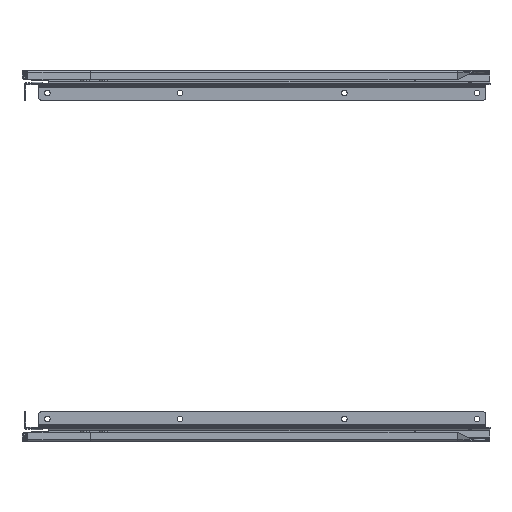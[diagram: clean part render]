
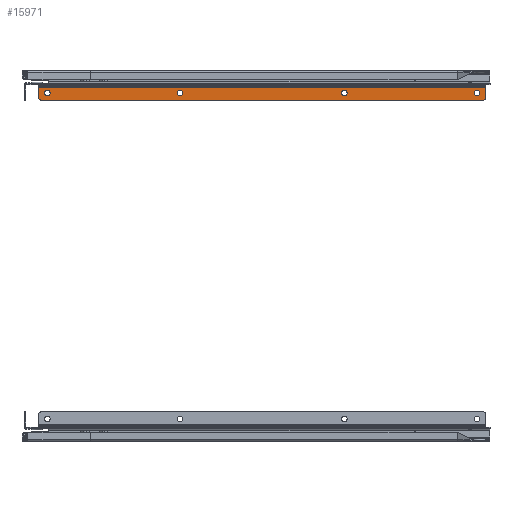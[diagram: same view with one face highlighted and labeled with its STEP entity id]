
A CAD part, front view. The second image highlights one B-rep face of the part: STEP entity #15971.
In plain terms, the highlighted planar face has unit normal (0, -1, 0).
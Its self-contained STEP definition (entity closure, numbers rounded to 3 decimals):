
#251 = EDGE_CURVE ( 'NONE', #11627, #12935, #11990, .T. ) ;
#440 = DIRECTION ( 'NONE',  ( 0., 0., -1. ) ) ;
#452 = CARTESIAN_POINT ( 'NONE',  ( 136.4, -0.7, -6.35 ) ) ;
#594 = DIRECTION ( 'NONE',  ( -1., 0., 0. ) ) ;
#637 = DIRECTION ( 'NONE',  ( 0., 0., 1. ) ) ;
#712 = CARTESIAN_POINT ( 'NONE',  ( 430.8, -0.7, -16. ) ) ;
#733 = DIRECTION ( 'NONE',  ( 0., 0., 1. ) ) ;
#981 = AXIS2_PLACEMENT_3D ( 'NONE', #2695, #10287, #12326 ) ;
#1202 = DIRECTION ( 'NONE',  ( 0., 1., 0. ) ) ;
#1331 = CARTESIAN_POINT ( 'NONE',  ( 430.8, -0.7, -3.324 ) ) ;
#1387 = CARTESIAN_POINT ( 'NONE',  ( 422.4, -0.7, -11.85 ) ) ;
#1583 = CARTESIAN_POINT ( 'NONE',  ( 3., -0.7, -16. ) ) ;
#2014 = ORIENTED_EDGE ( 'NONE', *, *, #7930, .F. ) ;
#2077 = CARTESIAN_POINT ( 'NONE',  ( 8.4, -0.7, -11.85 ) ) ;
#2141 = CARTESIAN_POINT ( 'NONE',  ( 430.8, -0.7, -3.324 ) ) ;
#2472 = FACE_BOUND ( 'NONE', #15064, .T. ) ;
#2596 = ORIENTED_EDGE ( 'NONE', *, *, #19677, .T. ) ;
#2695 = CARTESIAN_POINT ( 'NONE',  ( 294.4, -0.7, -9.1 ) ) ;
#3100 = DIRECTION ( 'NONE',  ( 0., 0., 1. ) ) ;
#3518 = VERTEX_POINT ( 'NONE', #1387 ) ;
#3845 = EDGE_LOOP ( 'NONE', ( #10043, #12340, #2014, #4509, #22682, #16872 ) ) ;
#4504 = ORIENTED_EDGE ( 'NONE', *, *, #16030, .T. ) ;
#4509 = ORIENTED_EDGE ( 'NONE', *, *, #15551, .T. ) ;
#4621 = AXIS2_PLACEMENT_3D ( 'NONE', #11980, #15788, #733 ) ;
#4965 = ORIENTED_EDGE ( 'NONE', *, *, #17947, .T. ) ;
#4976 = DIRECTION ( 'NONE',  ( 0., 0., 1. ) ) ;
#6037 = DIRECTION ( 'NONE',  ( 0., 1., 0. ) ) ;
#6153 = VERTEX_POINT ( 'NONE', #14687 ) ;
#6232 = CIRCLE ( 'NONE', #18809, 2.75 ) ;
#6497 = AXIS2_PLACEMENT_3D ( 'NONE', #21553, #17635, #15362 ) ;
#6625 = CIRCLE ( 'NONE', #981, 2.75 ) ;
#6636 = LINE ( 'NONE', #712, #8160 ) ;
#6977 = CIRCLE ( 'NONE', #10221, 2.75 ) ;
#7109 = CARTESIAN_POINT ( 'NONE',  ( 3., -0.7, -13. ) ) ;
#7119 = CIRCLE ( 'NONE', #24529, 2.75 ) ;
#7231 = DIRECTION ( 'NONE',  ( 0., 0., 1. ) ) ;
#7541 = VERTEX_POINT ( 'NONE', #21915 ) ;
#7544 = VECTOR ( 'NONE', #19724, 1000. ) ;
#7817 = CARTESIAN_POINT ( 'NONE',  ( 136.4, -0.7, -9.1 ) ) ;
#7930 = EDGE_CURVE ( 'NONE', #16706, #18841, #6636, .T. ) ;
#8140 = LINE ( 'NONE', #13720, #21797 ) ;
#8160 = VECTOR ( 'NONE', #594, 1000. ) ;
#8249 = CIRCLE ( 'NONE', #4621, 3. ) ;
#8322 = ORIENTED_EDGE ( 'NONE', *, *, #9836, .T. ) ;
#8657 = ORIENTED_EDGE ( 'NONE', *, *, #19147, .T. ) ;
#9025 = DIRECTION ( 'NONE',  ( 0., 0., -1. ) ) ;
#9254 = CIRCLE ( 'NONE', #17349, 3. ) ;
#9472 = EDGE_LOOP ( 'NONE', ( #2596, #16020 ) ) ;
#9484 = DIRECTION ( 'NONE',  ( 0., 1., 0. ) ) ;
#9790 = VERTEX_POINT ( 'NONE', #2077 ) ;
#9836 = EDGE_CURVE ( 'NONE', #10929, #19490, #6625, .T. ) ;
#10043 = ORIENTED_EDGE ( 'NONE', *, *, #12588, .T. ) ;
#10178 = FACE_BOUND ( 'NONE', #12161, .T. ) ;
#10221 = AXIS2_PLACEMENT_3D ( 'NONE', #18758, #9484, #20767 ) ;
#10287 = DIRECTION ( 'NONE',  ( 0., 1., 0. ) ) ;
#10762 = CARTESIAN_POINT ( 'NONE',  ( 294.4, -0.7, -6.35 ) ) ;
#10784 = CARTESIAN_POINT ( 'NONE',  ( 294.4, -0.7, -9.1 ) ) ;
#10929 = VERTEX_POINT ( 'NONE', #11593 ) ;
#10946 = DIRECTION ( 'NONE',  ( 0., 1., 0. ) ) ;
#11340 = AXIS2_PLACEMENT_3D ( 'NONE', #17714, #6037, #637 ) ;
#11593 = CARTESIAN_POINT ( 'NONE',  ( 294.4, -0.7, -11.85 ) ) ;
#11627 = VERTEX_POINT ( 'NONE', #15444 ) ;
#11707 = CARTESIAN_POINT ( 'NONE',  ( 427.8, -0.7, -16. ) ) ;
#11980 = CARTESIAN_POINT ( 'NONE',  ( 427.8, -0.7, -13. ) ) ;
#11990 = LINE ( 'NONE', #2141, #7544 ) ;
#12161 = EDGE_LOOP ( 'NONE', ( #8657, #8322 ) ) ;
#12259 = VERTEX_POINT ( 'NONE', #15916 ) ;
#12326 = DIRECTION ( 'NONE',  ( 0., 0., 1. ) ) ;
#12340 = ORIENTED_EDGE ( 'NONE', *, *, #14483, .T. ) ;
#12346 = FACE_BOUND ( 'NONE', #18815, .T. ) ;
#12386 = EDGE_CURVE ( 'NONE', #15955, #21489, #7119, .T. ) ;
#12588 = EDGE_CURVE ( 'NONE', #12935, #12259, #8140, .T. ) ;
#12790 = VERTEX_POINT ( 'NONE', #19965 ) ;
#12935 = VERTEX_POINT ( 'NONE', #23237 ) ;
#13279 = AXIS2_PLACEMENT_3D ( 'NONE', #10784, #18146, #22562 ) ;
#13720 = CARTESIAN_POINT ( 'NONE',  ( 0., -0.7, -3.324 ) ) ;
#14098 = AXIS2_PLACEMENT_3D ( 'NONE', #7817, #15176, #20993 ) ;
#14383 = CARTESIAN_POINT ( 'NONE',  ( 136.4, -0.7, -9.1 ) ) ;
#14483 = EDGE_CURVE ( 'NONE', #12259, #18841, #9254, .T. ) ;
#14687 = CARTESIAN_POINT ( 'NONE',  ( 8.4, -0.7, -6.35 ) ) ;
#15064 = EDGE_LOOP ( 'NONE', ( #23478, #4965 ) ) ;
#15176 = DIRECTION ( 'NONE',  ( 0., 1., 0. ) ) ;
#15362 = DIRECTION ( 'NONE',  ( 0., 0., 1. ) ) ;
#15383 = CIRCLE ( 'NONE', #11340, 2.75 ) ;
#15444 = CARTESIAN_POINT ( 'NONE',  ( 430.8, -0.7, -3.324 ) ) ;
#15551 = EDGE_CURVE ( 'NONE', #16706, #7541, #8249, .T. ) ;
#15634 = FACE_OUTER_BOUND ( 'NONE', #3845, .T. ) ;
#15788 = DIRECTION ( 'NONE',  ( 0., -1., 0. ) ) ;
#15916 = CARTESIAN_POINT ( 'NONE',  ( 0., -0.7, -13. ) ) ;
#15955 = VERTEX_POINT ( 'NONE', #452 ) ;
#15971 = ADVANCED_FACE ( 'NONE', ( #21699, #2472, #10178, #12346, #15634 ), #23352, .F. ) ;
#16020 = ORIENTED_EDGE ( 'NONE', *, *, #22243, .T. ) ;
#16030 = EDGE_CURVE ( 'NONE', #3518, #12790, #6232, .T. ) ;
#16392 = DIRECTION ( 'NONE',  ( 0., 1., 0. ) ) ;
#16638 = DIRECTION ( 'NONE',  ( 0., 0., 1. ) ) ;
#16706 = VERTEX_POINT ( 'NONE', #11707 ) ;
#16872 = ORIENTED_EDGE ( 'NONE', *, *, #251, .T. ) ;
#16962 = EDGE_CURVE ( 'NONE', #11627, #7541, #22941, .T. ) ;
#17029 = EDGE_CURVE ( 'NONE', #12790, #3518, #21900, .T. ) ;
#17331 = CIRCLE ( 'NONE', #13279, 2.75 ) ;
#17349 = AXIS2_PLACEMENT_3D ( 'NONE', #7109, #24600, #7231 ) ;
#17635 = DIRECTION ( 'NONE',  ( 0., 1., 0. ) ) ;
#17714 = CARTESIAN_POINT ( 'NONE',  ( 8.4, -0.7, -9.1 ) ) ;
#17947 = EDGE_CURVE ( 'NONE', #21489, #15955, #25027, .T. ) ;
#18146 = DIRECTION ( 'NONE',  ( 0., 1., 0. ) ) ;
#18758 = CARTESIAN_POINT ( 'NONE',  ( 8.4, -0.7, -9.1 ) ) ;
#18809 = AXIS2_PLACEMENT_3D ( 'NONE', #23994, #1202, #4976 ) ;
#18815 = EDGE_LOOP ( 'NONE', ( #20553, #4504 ) ) ;
#18841 = VERTEX_POINT ( 'NONE', #1583 ) ;
#19147 = EDGE_CURVE ( 'NONE', #19490, #10929, #17331, .T. ) ;
#19490 = VERTEX_POINT ( 'NONE', #10762 ) ;
#19677 = EDGE_CURVE ( 'NONE', #6153, #9790, #6977, .T. ) ;
#19724 = DIRECTION ( 'NONE',  ( -1., 0., 0. ) ) ;
#19965 = CARTESIAN_POINT ( 'NONE',  ( 422.4, -0.7, -6.35 ) ) ;
#20408 = AXIS2_PLACEMENT_3D ( 'NONE', #1331, #16392, #16638 ) ;
#20553 = ORIENTED_EDGE ( 'NONE', *, *, #17029, .T. ) ;
#20767 = DIRECTION ( 'NONE',  ( 0., 0., 1. ) ) ;
#20813 = CARTESIAN_POINT ( 'NONE',  ( 430.8, -0.7, -3.324 ) ) ;
#20993 = DIRECTION ( 'NONE',  ( 0., 0., 1. ) ) ;
#21063 = VECTOR ( 'NONE', #9025, 1000. ) ;
#21489 = VERTEX_POINT ( 'NONE', #24134 ) ;
#21553 = CARTESIAN_POINT ( 'NONE',  ( 422.4, -0.7, -9.1 ) ) ;
#21699 = FACE_BOUND ( 'NONE', #9472, .T. ) ;
#21797 = VECTOR ( 'NONE', #440, 1000. ) ;
#21900 = CIRCLE ( 'NONE', #6497, 2.75 ) ;
#21915 = CARTESIAN_POINT ( 'NONE',  ( 430.8, -0.7, -13. ) ) ;
#22243 = EDGE_CURVE ( 'NONE', #9790, #6153, #15383, .T. ) ;
#22562 = DIRECTION ( 'NONE',  ( 0., 0., 1. ) ) ;
#22682 = ORIENTED_EDGE ( 'NONE', *, *, #16962, .F. ) ;
#22941 = LINE ( 'NONE', #20813, #21063 ) ;
#23237 = CARTESIAN_POINT ( 'NONE',  ( 0., -0.7, -3.324 ) ) ;
#23352 = PLANE ( 'NONE',  #20408 ) ;
#23478 = ORIENTED_EDGE ( 'NONE', *, *, #12386, .T. ) ;
#23994 = CARTESIAN_POINT ( 'NONE',  ( 422.4, -0.7, -9.1 ) ) ;
#24134 = CARTESIAN_POINT ( 'NONE',  ( 136.4, -0.7, -11.85 ) ) ;
#24529 = AXIS2_PLACEMENT_3D ( 'NONE', #14383, #10946, #3100 ) ;
#24600 = DIRECTION ( 'NONE',  ( 0., -1., 0. ) ) ;
#25027 = CIRCLE ( 'NONE', #14098, 2.75 ) ;
